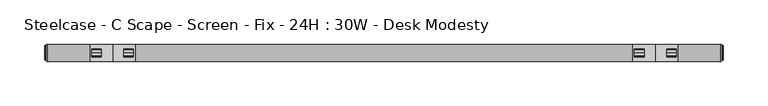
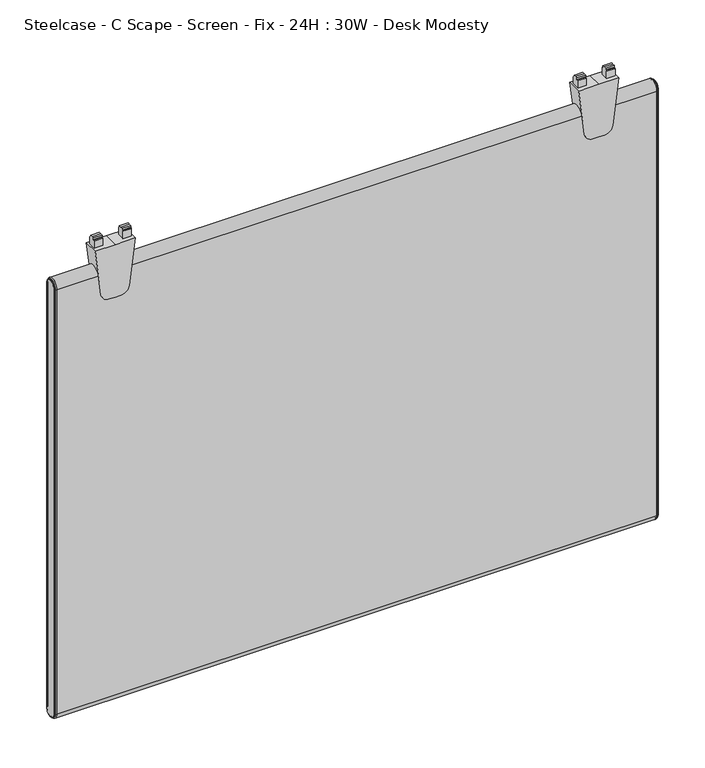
"""IFC4 building model written with IfcOpenShell, lengths in millimetres: furniture geometry, Steelcase - C Scape - Screen - Fix - 24H : 30W - Desk Modesty."""

from ifc_helpers import new_model, si_unit, point, frame, frame_2d, origin, place, context, project, spatial, polyline, circle_curve, ellipse_curve, trimmed, segment, composite_curve, outline, extrude, source, transform, mapped, element, save
from ifc_brep_helpers import plane_surface, cylinder_surface, revolved_surface, advanced_brep


def steelcase_c_scape_screen_fix_24h_30w_desk_modesty_aaf8006f(model_context):
    return source(origin(), model_context, "Body", "SolidModel", [
        extrude(outline(composite_curve([segment(polyline([(703.414888, 101.4730434), (703.414888, 76.2001674), (703.414888, 50.9272915), (643.0897579, 58.3341853)]), True, "CONTINUOUS"), segment(trimmed(circle_curve(frame_2d((644.4116282, 69.1001018)), 10.8467645), [point((643.0897579, 58.3341853))], [point((633.5648638, 69.1001018))], False, "CARTESIAN"), True, "CONTINUOUS"), segment(polyline([(633.5648638, 69.1001018), (633.5648638, 76.2001674), (633.5648638, 83.300233)]), True, "CONTINUOUS"), segment(trimmed(circle_curve(frame_2d((644.4116282, 83.300233)), 10.8467645), [point((633.5648638, 83.300233))], [point((643.0897579, 94.0661495))], False, "CARTESIAN"), True, "CONTINUOUS"), segment(polyline([(643.0897579, 94.0661495), (703.414888, 101.4730434)]), True, "CONTINUOUS")], self_intersect=False)), frame((0.0, -9.525, 0.0), z_axis=(0.0, 1.0, 0.0), x_axis=(0.0, 0.0, 1.0)), (0.0, 0.0, 1.0), 19.05),
        extrude(outline(polyline([(-4.5465975, 703.414888), (-4.5465975, 713.3208967), (-4.0139265, 714.2073252), (-2.9972008, 714.2073252), (-2.9972008, 716.4425812), (0.0, 716.534), (2.9972008, 716.4425812), (2.9972008, 714.2073252), (4.0139265, 714.2073252), (4.5465975, 713.3208967), (4.5465975, 703.414888), (0.0, 703.414888), (-4.5465975, 703.414888)])), frame((88.9267162, 0.0, 0.0), z_axis=(1.0, 0.0, 0.0), x_axis=(0.0, 1.0, 0.0)), (0.0, 0.0, 1.0), 10.7813187),
        extrude(outline(polyline([(-4.5465975, 703.414888), (-4.5465975, 713.3208967), (-4.0139265, 714.2073252), (-2.9972008, 714.2073252), (-2.9972008, 716.4425812), (0.0, 716.534), (2.9972008, 716.4425812), (2.9972008, 714.2073252), (4.0139265, 714.2073252), (4.5465975, 713.3208967), (4.5465975, 703.414888), (0.0, 703.414888), (-4.5465975, 703.414888)])), frame((52.6923, 0.0, 0.0), z_axis=(1.0, 0.0, 0.0), x_axis=(0.0, 1.0, 0.0)), (0.0, 0.0, 1.0), 10.7813187),
        extrude(outline(composite_curve([segment(polyline([(703.414888, 710.3107132), (703.414888, 685.0378372), (703.414888, 659.7649612), (643.0897579, 667.1718551)]), True, "CONTINUOUS"), segment(trimmed(circle_curve(frame_2d((644.4116282, 677.9377716)), 10.8467645), [point((643.0897579, 667.1718551))], [point((633.5648638, 677.9377716))], False, "CARTESIAN"), True, "CONTINUOUS"), segment(polyline([(633.5648638, 677.9377716), (633.5648638, 685.0378372), (633.5648638, 692.1379028)]), True, "CONTINUOUS"), segment(trimmed(circle_curve(frame_2d((644.4116282, 692.1379028)), 10.8467645), [point((633.5648638, 692.1379028))], [point((643.0897579, 702.9038193))], False, "CARTESIAN"), True, "CONTINUOUS"), segment(polyline([(643.0897579, 702.9038193), (703.414888, 710.3107132)]), True, "CONTINUOUS")], self_intersect=False)), frame((0.0, -9.525, 0.0), z_axis=(0.0, 1.0, 0.0), x_axis=(0.0, 0.0, 1.0)), (0.0, 0.0, 1.0), 19.05),
        extrude(outline(polyline([(-4.5465975, 703.414888), (-4.5465975, 713.3208967), (-4.0139265, 714.2073252), (-2.9972008, 714.2073252), (-2.9972008, 716.4425812), (0.0, 716.534), (2.9972008, 716.4425812), (2.9972008, 714.2073252), (4.0139265, 714.2073252), (4.5465975, 713.3208967), (4.5465975, 703.414888), (0.0, 703.414888), (-4.5465975, 703.414888)])), frame((697.764386, 0.0, 0.0), z_axis=(1.0, 0.0, 0.0), x_axis=(0.0, 1.0, 0.0)), (0.0, 0.0, 1.0), 10.7813187),
        extrude(outline(polyline([(-4.5465975, 703.414888), (-4.5465975, 713.3208967), (-4.0139265, 714.2073252), (-2.9972008, 714.2073252), (-2.9972008, 716.4425812), (0.0, 716.534), (2.9972008, 716.4425812), (2.9972008, 714.2073252), (4.0139265, 714.2073252), (4.5465975, 713.3208967), (4.5465975, 703.414888), (0.0, 703.414888), (-4.5465975, 703.414888)])), frame((661.5299698, 0.0, 0.0), z_axis=(1.0, 0.0, 0.0), x_axis=(0.0, 1.0, 0.0)), (0.0, 0.0, 1.0), 10.7813187),
        advanced_brep(
        [(758.4486613, -9.525, 668.909), (758.4486613, 9.525, 668.909), (758.4486613, 9.525, 103.759), (758.4486613, -9.525, 103.759), (761.2426613, 7.4929583, 668.909), (761.2426613, -7.4929583, 668.909), (761.2426613, -7.4929583, 103.759), (761.2426613, 7.4929583, 103.759), (760.7346545, -8.0009651, 668.909), (760.7346545, 8.0009651, 668.909), (759.4646613, 8.0009651, 668.909), (759.4646613, -8.0009651, 668.909), (759.4646613, -8.8204932, 668.909), (759.4646613, 8.8204932, 668.909), (759.4646613, -8.0009651, 103.759), (760.7346545, -8.0009651, 103.759), (759.4646613, -8.8204932, 103.759), (759.4646613, 8.0009651, 103.759), (760.7346545, 8.0009651, 103.759), (759.4646613, 8.8204932, 103.759)],
        [
            (0, 1, circle_curve(frame((758.4486613, 0.0, 668.909), z_axis=(-1.0, 0.0, 0.0), x_axis=(0.0, 1.0, 0.0)), 9.525)),
            (1, 2),
            (2, 3, circle_curve(frame((758.4486613, 0.0, 103.759), z_axis=(-1.0, 0.0, 0.0), x_axis=(0.0, -1.0, 0.0)), 9.525)),
            (3, 0),
            (4, 5, circle_curve(frame((761.2426613, 0.0, 668.909), z_axis=(1.0, 0.0, 0.0), x_axis=(0.0, 1.0, 0.0)), 7.4929583)),
            (5, 6),
            (6, 7, circle_curve(frame((761.2426613, 0.0, 103.759), z_axis=(1.0, 0.0, 0.0), x_axis=(0.0, -1.0, 0.0)), 7.4929583)),
            (7, 4),
            (8, 9, circle_curve(frame((760.7346545, 0.0, 668.909), z_axis=(-1.0, 0.0, 0.0), x_axis=(0.0, 1.0, 0.0)), 8.0009651)),
            (9, 10),
            (10, 11, circle_curve(frame((759.4646613, 0.0, 668.909), z_axis=(1.0, 0.0, 0.0), x_axis=(0.0, 1.0, 0.0)), 8.0009651)),
            (11, 8),
            (8, 5, circle_curve(frame((760.7346545, -7.4929583, 668.909), z_axis=(0.0, 0.0, 1.0), x_axis=(0.0, -1.0, 0.0)), 0.5080068)),
            (4, 9, circle_curve(frame((760.7346545, 7.4929583, 668.909), z_axis=(0.0, 0.0, 1.0), x_axis=(0.0, 1.0, 0.0)), 0.5080068)),
            (12, 13, circle_curve(frame((759.4646613, 0.0, 668.909), z_axis=(-1.0, 0.0, 0.0), x_axis=(0.0, 1.0, 0.0)), 8.8204932)),
            (13, 1, circle_curve(frame((758.3806211, 8.3420139, 668.909), z_axis=(0.0, 0.0, 1.0), x_axis=(0.0, 1.0, 0.0)), 1.1849411)),
            (0, 12, circle_curve(frame((758.3806211, -8.3420139, 668.909), z_axis=(0.0, 0.0, 1.0), x_axis=(0.0, -1.0, 0.0)), 1.1849411)),
            (11, 14),
            (14, 15),
            (15, 8),
            (15, 6, circle_curve(frame((760.7346545, -7.4929583, 103.759), z_axis=(0.0, 0.0, 1.0), x_axis=(0.0, -1.0, 0.0)), 0.5080068)),
            (3, 16, circle_curve(frame((758.3806211, -8.3420139, 103.759), z_axis=(0.0, 0.0, 1.0), x_axis=(0.0, -1.0, 0.0)), 1.1849411)),
            (16, 12),
            (14, 17, circle_curve(frame((759.4646613, 0.0, 103.759), z_axis=(1.0, 0.0, 0.0), x_axis=(0.0, -1.0, 0.0)), 8.0009651)),
            (17, 18),
            (18, 15, circle_curve(frame((760.7346545, 0.0, 103.759), z_axis=(-1.0, 0.0, 0.0), x_axis=(0.0, -1.0, 0.0)), 8.0009651)),
            (18, 7, circle_curve(frame((760.7346545, 7.4929583, 103.759), z_axis=(0.0, 0.0, -1.0), x_axis=(0.0, 1.0, 0.0)), 0.5080068)),
            (2, 19, circle_curve(frame((758.3806211, 8.3420139, 103.759), z_axis=(0.0, 0.0, -1.0), x_axis=(0.0, 1.0, 0.0)), 1.1849411)),
            (19, 16, circle_curve(frame((759.4646613, 0.0, 103.759), z_axis=(-1.0, 0.0, 0.0), x_axis=(0.0, -1.0, 0.0)), 8.8204932)),
            (9, 18),
            (17, 10),
            (13, 19),
        ],
        [
            plane_surface(frame((758.4486613, -6.3509705, 668.909), z_axis=(-1.0, 0.0, 0.0), x_axis=(0.0, 0.0, 1.0))),
            plane_surface(frame((761.2426613, -6.3509705, 668.909), z_axis=(1.0, 0.0, 0.0), x_axis=(0.0, 0.0, -1.0))),
            cylinder_surface(frame((758.4486613, 0.0, 668.909), z_axis=(1.0, 0.0, 0.0), x_axis=(0.0, 1.0, 0.0)), 8.0009651),
            revolved_surface(trimmed(ellipse_curve(frame((760.7346545, 7.4929583, 668.909), z_axis=(0.0, 0.0, -1.0), x_axis=(0.0, 1.0, 0.0)), 0.5080068, 0.5080068), [point((760.7346545, 8.0009651, 668.909))], [point((761.2426613, 7.4929583, 668.909))], True, "CARTESIAN"), (758.4486613, 0.0, 668.909), (1.0, 0.0, 0.0)),
            revolved_surface(trimmed(ellipse_curve(frame((758.3806211, 8.3420139, 668.909), z_axis=(0.0, 0.0, -1.0), x_axis=(0.0, 1.0, 0.0)), 1.1849411, 1.1849411), [point((758.4486613, 9.525, 668.909))], [point((759.4646613, 8.8204932, 668.909))], True, "CARTESIAN"), (758.4486613, 0.0, 668.909), (1.0, 0.0, 0.0)),
            plane_surface(frame((759.4646613, -8.0009651, 668.909), z_axis=(0.0, -1.0, 0.0), x_axis=(0.0, 0.0, -1.0))),
            cylinder_surface(frame((760.7346545, -7.4929583, 668.909), z_axis=(0.0, 0.0, 1.0), x_axis=(0.0, -1.0, 0.0)), 0.5080068),
            cylinder_surface(frame((758.3806211, -8.3420139, 668.909), z_axis=(0.0, 0.0, 1.0), x_axis=(0.0, -1.0, 0.0)), 1.1849411),
            cylinder_surface(frame((758.4486613, 0.0, 103.759), z_axis=(1.0, 0.0, 0.0), x_axis=(0.0, -1.0, 0.0)), 8.0009651),
            revolved_surface(trimmed(ellipse_curve(frame((760.7346545, -7.4929583, 103.759), z_axis=(0.0, 0.0, 1.0), x_axis=(0.0, -1.0, 0.0)), 0.5080068, 0.5080068), [point((760.7346545, -8.0009651, 103.759))], [point((761.2426613, -7.4929583, 103.759))], True, "CARTESIAN"), (758.4486613, 0.0, 103.759), (1.0, 0.0, 0.0)),
            revolved_surface(trimmed(ellipse_curve(frame((758.3806211, -8.3420139, 103.759), z_axis=(0.0, 0.0, 1.0), x_axis=(0.0, -1.0, 0.0)), 1.1849411, 1.1849411), [point((758.4486613, -9.525, 103.759))], [point((759.4646613, -8.8204932, 103.759))], True, "CARTESIAN"), (758.4486613, 0.0, 103.759), (1.0, 0.0, 0.0)),
            plane_surface(frame((759.4646613, 8.0009651, 103.759), z_axis=(0.0, 1.0, 0.0), x_axis=(0.0, 0.0, 1.0))),
            cylinder_surface(frame((760.7346545, 7.4929583, 103.759), z_axis=(0.0, 0.0, -1.0), x_axis=(0.0, 1.0, 0.0)), 0.5080068),
            cylinder_surface(frame((758.3806211, 8.3420139, 103.759), z_axis=(0.0, 0.0, -1.0), x_axis=(0.0, 1.0, 0.0)), 1.1849411),
            plane_surface(frame((759.4646613, 8.8204932, 103.759), z_axis=(1.0, 0.0, 0.0), x_axis=(0.0, 0.0, 1.0))),
        ],
        [
            (0, [[1, 2, 3, 4]]),
            (1, [[5, 6, 7, 8]]),
            (2, [[9, 10, 11, 12]]),
            (3, [[-9, 13, -5, 14]]),
            (4, [[15, 16, -1, 17]]),
            (5, [[-12, 18, 19, 20]]),
            (6, [[-13, -20, 21, -6]]),
            (7, [[-17, -4, 22, 23]]),
            (8, [[-19, 24, 25, 26]]),
            (9, [[-21, -26, 27, -7]]),
            (10, [[-22, -3, 28, 29]]),
            (11, [[-10, 30, -25, 31]]),
            (12, [[-14, -8, -27, -30]]),
            (13, [[-16, 32, -28, -2]]),
            (14, [[-15, -23, -29, -32], [-11, -31, -24, -18]]),
        ],
    ),
        advanced_brep(
        [(2.7940155, 9.525, 668.909), (2.7940155, -9.525, 668.909), (2.7940155, -9.525, 103.759), (2.7940155, 9.525, 103.759), (0.0, -7.4929583, 668.909), (0.0, 7.4929583, 668.909), (0.0, 7.4929583, 103.759), (0.0, -7.4929583, 103.759), (1.778, 8.8204932, 668.909), (1.778, -8.8204932, 668.909), (0.5080068, -8.0009651, 668.909), (0.5080068, 8.0009651, 668.909), (1.778, -8.0009651, 668.909), (1.778, 8.0009651, 668.909), (1.778, -8.8204932, 103.759), (0.5080068, -8.0009651, 103.759), (1.778, -8.0009651, 103.759), (1.778, 8.8204932, 103.759), (0.5080068, 8.0009651, 103.759), (1.778, 8.0009651, 103.759)],
        [
            (0, 1, circle_curve(frame((2.7940155, 0.0, 668.909), z_axis=(1.0, 0.0, 0.0), x_axis=(0.0, 1.0, 0.0)), 9.525)),
            (1, 2),
            (2, 3, circle_curve(frame((2.7940155, 0.0, 103.759), z_axis=(1.0, 0.0, 0.0), x_axis=(0.0, -1.0, 0.0)), 9.525)),
            (3, 0),
            (4, 5, circle_curve(frame((0.0, 0.0, 668.909), z_axis=(-1.0, 0.0, 0.0), x_axis=(0.0, 1.0, 0.0)), 7.4929583)),
            (5, 6),
            (6, 7, circle_curve(frame((0.0, 0.0, 103.759), z_axis=(-1.0, 0.0, 0.0), x_axis=(0.0, -1.0, 0.0)), 7.4929583)),
            (7, 4),
            (0, 8, circle_curve(frame((2.8620402, 8.3420139, 668.909), z_axis=(0.0, 0.0, 1.0), x_axis=(0.0, -1.0, 0.0)), 1.1849411)),
            (8, 9, circle_curve(frame((1.778, 0.0, 668.909), z_axis=(1.0, 0.0, 0.0), x_axis=(0.0, 1.0, 0.0)), 8.8204932)),
            (9, 1, circle_curve(frame((2.8620402, -8.3420139, 668.909), z_axis=(0.0, 0.0, 1.0), x_axis=(0.0, 1.0, 0.0)), 1.1849411)),
            (10, 11, circle_curve(frame((0.5080068, 0.0, 668.909), z_axis=(-1.0, 0.0, 0.0), x_axis=(0.0, 1.0, 0.0)), 8.0009651)),
            (11, 5, circle_curve(frame((0.5080068, 7.4929583, 668.909), z_axis=(0.0, 0.0, 1.0), x_axis=(0.0, -1.0, 0.0)), 0.5080068)),
            (4, 10, circle_curve(frame((0.5080068, -7.4929583, 668.909), z_axis=(0.0, 0.0, 1.0), x_axis=(0.0, 1.0, 0.0)), 0.5080068)),
            (10, 12),
            (12, 13, circle_curve(frame((1.778, 0.0, 668.909), z_axis=(-1.0, 0.0, 0.0), x_axis=(0.0, 1.0, 0.0)), 8.0009651)),
            (13, 11),
            (9, 14),
            (14, 2, circle_curve(frame((2.8620402, -8.3420139, 103.759), z_axis=(0.0, 0.0, 1.0), x_axis=(0.0, 1.0, 0.0)), 1.1849411)),
            (7, 15, circle_curve(frame((0.5080068, -7.4929583, 103.759), z_axis=(0.0, 0.0, 1.0), x_axis=(0.0, 1.0, 0.0)), 0.5080068)),
            (15, 10),
            (15, 16),
            (16, 12),
            (14, 17, circle_curve(frame((1.778, 0.0, 103.759), z_axis=(1.0, 0.0, 0.0), x_axis=(0.0, -1.0, 0.0)), 8.8204932)),
            (17, 3, circle_curve(frame((2.8620402, 8.3420139, 103.759), z_axis=(0.0, 0.0, -1.0), x_axis=(0.0, -1.0, 0.0)), 1.1849411)),
            (6, 18, circle_curve(frame((0.5080068, 7.4929583, 103.759), z_axis=(0.0, 0.0, -1.0), x_axis=(0.0, -1.0, 0.0)), 0.5080068)),
            (18, 15, circle_curve(frame((0.5080068, 0.0, 103.759), z_axis=(-1.0, 0.0, 0.0), x_axis=(0.0, -1.0, 0.0)), 8.0009651)),
            (18, 19),
            (19, 16, circle_curve(frame((1.778, 0.0, 103.759), z_axis=(-1.0, 0.0, 0.0), x_axis=(0.0, -1.0, 0.0)), 8.0009651)),
            (8, 17),
            (19, 13),
            (11, 18),
        ],
        [
            plane_surface(frame((2.7940155, -6.3509705, 668.909), z_axis=(1.0, 0.0, 0.0), x_axis=(0.0, 0.0, -1.0))),
            plane_surface(frame((0.0, -6.3509705, 668.909), z_axis=(-1.0, 0.0, 0.0), x_axis=(0.0, 0.0, 1.0))),
            revolved_surface(trimmed(ellipse_curve(frame((2.8620402, 8.3420139, 668.909), z_axis=(0.0, 0.0, -1.0), x_axis=(0.0, -1.0, 0.0)), 1.1849411, 1.1849411), [point((1.778, 8.8204932, 668.909))], [point((2.794, 9.525, 668.909))], True, "CARTESIAN"), (2.794, 0.0, 668.909), (1.0, 0.0, 0.0)),
            revolved_surface(trimmed(ellipse_curve(frame((0.5080068, 7.4929583, 668.909), z_axis=(0.0, 0.0, -1.0), x_axis=(0.0, -1.0, 0.0)), 0.5080068, 0.5080068), [point((0.0, 7.4929583, 668.909))], [point((0.5080068, 8.0009651, 668.909))], True, "CARTESIAN"), (2.794, 0.0, 668.909), (1.0, 0.0, 0.0)),
            cylinder_surface(frame((2.794, 0.0, 668.909), z_axis=(1.0, 0.0, 0.0), x_axis=(0.0, 1.0, 0.0)), 8.0009651),
            cylinder_surface(frame((2.8620402, -8.3420139, 668.909), z_axis=(0.0, 0.0, 1.0), x_axis=(0.0, 1.0, 0.0)), 1.1849411),
            cylinder_surface(frame((0.5080068, -7.4929583, 668.909), z_axis=(0.0, 0.0, 1.0), x_axis=(0.0, 1.0, 0.0)), 0.5080068),
            plane_surface(frame((0.5080068, -8.0009651, 668.909), z_axis=(0.0, -1.0, 0.0), x_axis=(0.0, 0.0, -1.0))),
            revolved_surface(trimmed(ellipse_curve(frame((2.8620402, -8.3420139, 103.759), z_axis=(0.0, 0.0, 1.0), x_axis=(0.0, 1.0, 0.0)), 1.1849411, 1.1849411), [point((1.778, -8.8204932, 103.759))], [point((2.794, -9.525, 103.759))], True, "CARTESIAN"), (2.794, 0.0, 103.759), (1.0, 0.0, 0.0)),
            revolved_surface(trimmed(ellipse_curve(frame((0.5080068, -7.4929583, 103.759), z_axis=(0.0, 0.0, 1.0), x_axis=(0.0, 1.0, 0.0)), 0.5080068, 0.5080068), [point((0.0, -7.4929583, 103.759))], [point((0.5080068, -8.0009651, 103.759))], True, "CARTESIAN"), (2.794, 0.0, 103.759), (1.0, 0.0, 0.0)),
            cylinder_surface(frame((2.794, 0.0, 103.759), z_axis=(1.0, 0.0, 0.0), x_axis=(0.0, -1.0, 0.0)), 8.0009651),
            plane_surface(frame((1.778, 8.0009651, 103.759), z_axis=(-1.0, 0.0, 0.0), x_axis=(0.0, 0.0, 1.0))),
            cylinder_surface(frame((2.8620402, 8.3420139, 103.759), z_axis=(0.0, 0.0, -1.0), x_axis=(0.0, -1.0, 0.0)), 1.1849411),
            cylinder_surface(frame((0.5080068, 7.4929583, 103.759), z_axis=(0.0, 0.0, -1.0), x_axis=(0.0, -1.0, 0.0)), 0.5080068),
            plane_surface(frame((0.5080068, 8.0009651, 103.759), z_axis=(0.0, 1.0, 0.0), x_axis=(0.0, 0.0, 1.0))),
        ],
        [
            (0, [[1, 2, 3, 4]]),
            (1, [[5, 6, 7, 8]]),
            (2, [[-1, 9, 10, 11]]),
            (3, [[12, 13, -5, 14]]),
            (4, [[-12, 15, 16, 17]]),
            (5, [[-11, 18, 19, -2]]),
            (6, [[-14, -8, 20, 21]]),
            (7, [[-15, -21, 22, 23]]),
            (8, [[-19, 24, 25, -3]]),
            (9, [[-20, -7, 26, 27]]),
            (10, [[-22, -27, 28, 29]]),
            (11, [[-10, 30, -24, -18], [-16, -23, -29, 31]]),
            (12, [[-9, -4, -25, -30]]),
            (13, [[-13, 32, -26, -6]]),
            (14, [[-17, -31, -28, -32]]),
        ],
    ),
        extrude(outline(composite_curve([segment(trimmed(circle_curve(frame_2d((0.0, 668.909)), 9.525), [point((-9.525, 668.909))], [point((9.525, 668.909))], False, "CARTESIAN"), True, "CONTINUOUS"), segment(polyline([(9.525, 668.909), (9.525, 103.759)]), True, "CONTINUOUS"), segment(trimmed(circle_curve(frame_2d((0.0, 103.759)), 9.525), [point((9.525, 103.759))], [point((-9.525, 103.759))], False, "CARTESIAN"), True, "CONTINUOUS"), segment(polyline([(-9.525, 103.759), (-9.525, 668.909)]), True, "CONTINUOUS")], self_intersect=False)), frame((2.794, 0.0, 0.0), z_axis=(1.0, 0.0, 0.0), x_axis=(0.0, 1.0, 0.0)), (0.0, 0.0, 1.0), 755.6546613),
    ])


if __name__ == "__main__":
    model = new_model("IFC4")
    model_context = context("Model", 3, world=origin())
    ifc_project = project(units=[si_unit("LENGTHUNIT", "METRE", prefix="MILLI")], contexts=[model_context])
    site = spatial("IfcSite", under=ifc_project)
    building = spatial("IfcBuilding", under=site)
    placement = place(None, origin())
    steelcase_c_scape_screen_fix_24h_30w_desk_modesty_shape = steelcase_c_scape_screen_fix_24h_30w_desk_modesty_aaf8006f(model_context)
    element("IfcFurniture", 1, ObjectType="Steelcase - C Scape - Screen - Fix - 24H : 30W - Desk Modesty", at=placement, inside=building, context=model_context, shape_type="MappedRepresentation", body=[
        mapped(steelcase_c_scape_screen_fix_24h_30w_desk_modesty_shape, transform((0.0, 0.0, 0.0), x_axis=(1.0, 0.0, 0.0), y_axis=(0.0, 1.0, 0.0), z_axis=(0.0, 0.0, 1.0))),
    ])
    save(model, "model.ifc")
